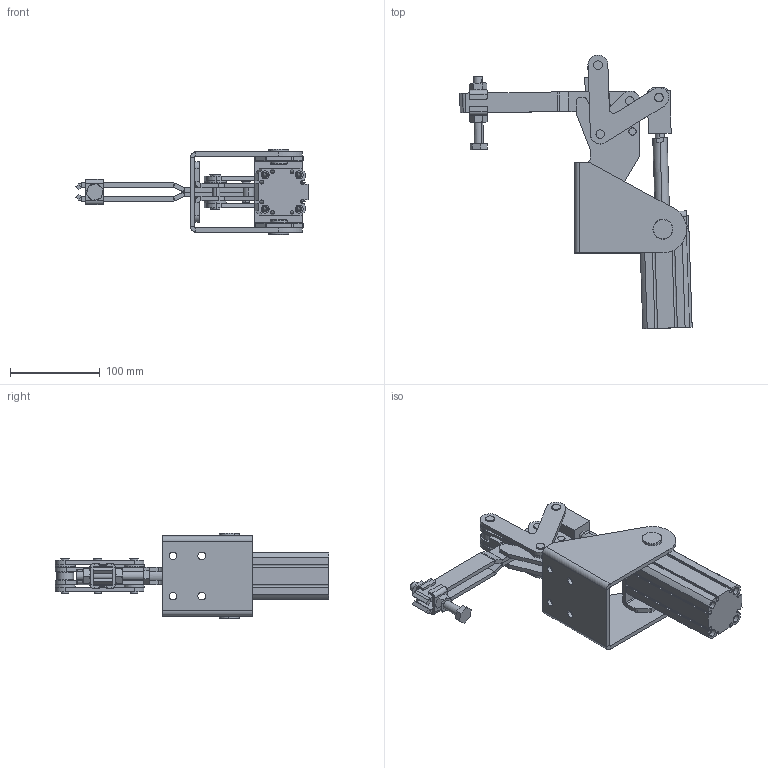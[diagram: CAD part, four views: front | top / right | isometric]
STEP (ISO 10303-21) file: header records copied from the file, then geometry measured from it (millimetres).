
FILE_DESCRIPTION (( 'STEP AP203' ), '1' );
FILE_NAME ('KF-411 DB P.STEP', '2014-08-28T19:35:11', ( 'Ricardo' ), ( '' ), 'SwSTEP 2.0', 'SolidWorks 2013', '' );
FILE_SCHEMA (( 'CONFIG_CONTROL_DESIGN' ));
Length unit declared in the file: millimetre
Products named in the file (23): HI_CD55B40-80(0)_BODY; 01.10093; 04.10003A_Direita; HI_C55B40-80M(0)_ROD; 17.50009; 04.10003B_Direita; CD55B40-80M_avan㌢do; 15.20012; 16.20072; KF-411 DB P; 15.10061; 05.20006; 15.10062; 06.50009; 16.20071; 14.10002; 02.12024_Direita; 06.50046; 11.50003; 02.12024_Esquerda; 501-019; 12.50004; 03.14005
Assembly tree (34 placements, depth 3):
  KF-411 DB P
    02.12024_Direita
    02.12024_Esquerda
    03.14005  x2
    04.10003A_Direita
    04.10003B_Direita
    16.20072
    05.20006
    06.50009  x2
    14.10002  x2
    11.50003  x2
    12.50004
    01.10093  x2
    17.50009  x4
    15.20012
    15.10061
    15.10062
    16.20071  x2
    06.50046  x3
    501-019  x2
    CD55B40-80M_avan㌢do
      HI_CD55B40-80(0)_BODY
      HI_C55B40-80M(0)_ROD
Bounding box: 258.94 x 305.16 x 95.5 mm (x, y, z)
Volume: 600873.9 mm3; surface area: 258314.2 mm2
Topology: 33 solids, 33 shells, 792 faces, 1862 edges, 1160 vertices
Faces by surface type: cylinder 366, plane 344, cone 82
Entity records: 20269 total; most frequent: DIRECTION 3244, CARTESIAN_POINT 3075, ORIENTED_EDGE 2816, EDGE_CURVE 1408, AXIS2_PLACEMENT_3D 1226, VERTEX_POINT 889, VECTOR 792, LINE 792
